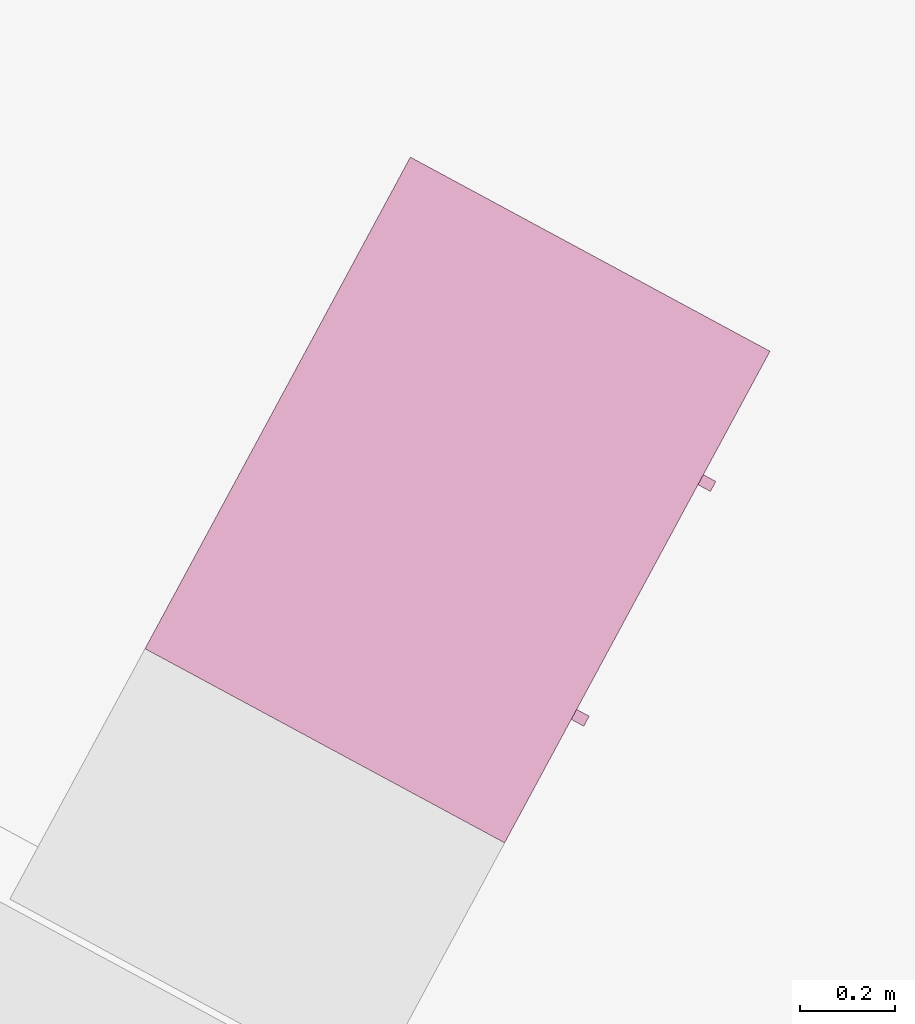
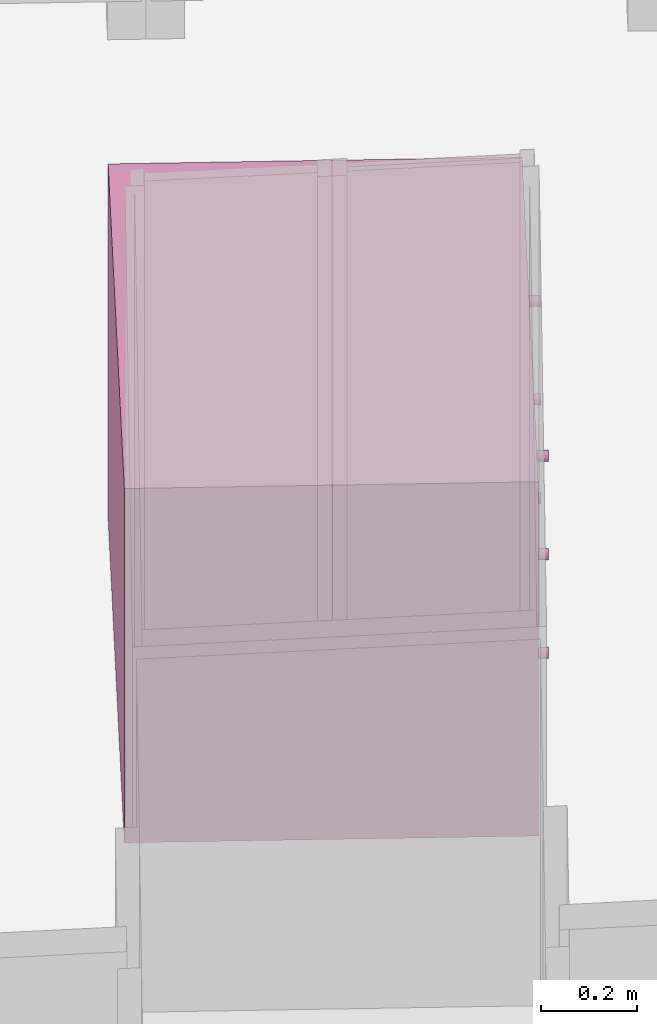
# One storey, part 30 of 41: 1 furnishing.
"""IFC2X3 building model written with IfcOpenShell, lengths in metres."""

from ifc_helpers import new_model, entity, si_unit, converted_unit, derived_unit, money_unit, direction, frame, origin_with_axes, place, context, subcontext, project, spatial, faceted_brep, type_object, element, save


model = new_model("IFC2X3")

# Units and contexts
model_context = context("Model", 3, precision=1e-05, world=origin_with_axes(), true_north=direction((0.0, 1.0)))
body_context = subcontext(model_context, "Body", "Model", "MODEL_VIEW")
ifc_project = project(units=[si_unit("LENGTHUNIT", "METRE"), si_unit("AREAUNIT", "SQUARE_METRE"), si_unit("VOLUMEUNIT", "CUBIC_METRE"), converted_unit("PLANEANGLEUNIT", "DEGREE", entity("IfcPlaneAngleMeasure", 0.0174532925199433), si_unit("PLANEANGLEUNIT", "RADIAN"), dimensions=[0, 0, 0, 0, 0, 0, 0]), money_unit("EUR"), converted_unit("TIMEUNIT", "Year", entity("IfcTimeMeasure", 31556926.0), si_unit("TIMEUNIT", "SECOND"), dimensions=[0, 0, 1, 0, 0, 0, 0]), si_unit("MASSUNIT", "GRAM", prefix="KILO"), si_unit("THERMODYNAMICTEMPERATUREUNIT", "DEGREE_CELSIUS"), si_unit("LUMINOUSINTENSITYUNIT", "LUMEN"), si_unit("ENERGYUNIT", "JOULE", prefix="MEGA"), derived_unit("THERMALCONDUCTANCEUNIT", [(si_unit("POWERUNIT", "WATT"), 1), (si_unit("LENGTHUNIT", "METRE"), -1), (si_unit("THERMODYNAMICTEMPERATUREUNIT", "KELVIN"), -1)]), derived_unit("SPECIFICHEATCAPACITYUNIT", [(si_unit("ENERGYUNIT", "JOULE"), 1), (si_unit("MASSUNIT", "GRAM", prefix="KILO"), -1), (si_unit("THERMODYNAMICTEMPERATUREUNIT", "KELVIN"), -1)]), derived_unit("MASSDENSITYUNIT", [(si_unit("MASSUNIT", "GRAM", prefix="KILO"), 1), (si_unit("VOLUMEUNIT", "CUBIC_METRE"), -1)])], contexts=[model_context])

# Site, building, storey
site_placement = place(None, frame((-3.949935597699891, 1.740105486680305, 0.0), z_axis=(0.0, 0.0, 1.0), x_axis=(0.8799804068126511, -0.475009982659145, 0.0)))
site = spatial("IfcSite", under=ifc_project, at=site_placement, Name="Gelände", CompositionType="ELEMENT")
building_placement = place(site_placement, origin_with_axes())
building = spatial("IfcBuilding", under=site, at=building_placement, Name="Gebäude", CompositionType="ELEMENT")
storey_placement = place(building_placement, frame((0.0, 0.0, 4.55), z_axis=(0.0, 0.0, 1.0), x_axis=(1.0, 0.0, 0.0)))
storey = spatial("IfcBuildingStorey", under=building, at=storey_placement, Name="Staffelgeschoss", CompositionType="ELEMENT", Elevation=4.55)

# Furnishing
furniture_type = type_object("IfcFurnitureType", Name="Kommode 26", AssemblyPlace="NOTDEFINED")
furnishing_placement = place(storey_placement, frame((14.27822566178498, 2.239997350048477, 0.0), z_axis=(0.0, 0.0, 1.0), x_axis=(0.0, 1.0, 0.0)))
element("IfcFurnishingElement", 1, at=furnishing_placement, inside=storey, type_object=furniture_type, Name="Objekt-0098", ObjectType="FURNITURE", context=body_context, shape_type="Brep", body=[
    faceted_brep([(0.025, 0.0, 0.0), (0.0, 0.0, 0.0), (0.0, 0.8618297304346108, 0.0), (0.025, 0.8618297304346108, 0.0), (0.025, 0.0, 0.875), (0.0, 0.0, 0.875), (0.0, 0.8618297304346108, 0.875), (0.025, 0.8618297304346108, 0.875)], [[[0, 1, 2, 3]], [[1, 0, 4, 5]], [[2, 1, 5, 6]], [[3, 2, 6, 7]], [[0, 3, 7, 4]], [[5, 4, 7, 6]]]),
    faceted_brep([(1.153063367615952, 0.02, 0.0), (0.025, 0.02, 0.0), (0.025, 0.045, 0.0), (1.153063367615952, 0.045, 0.0), (1.153063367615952, 0.02, 0.11), (0.025, 0.02, 0.11), (0.025, 0.045, 0.11), (1.153063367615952, 0.045, 0.11)], [[[0, 1, 2, 3]], [[1, 0, 4, 5]], [[2, 1, 5, 6]], [[3, 2, 6, 7]], [[0, 3, 7, 4]], [[5, 4, 7, 6]]]),
    faceted_brep([(1.153063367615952, 0.8368297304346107, 0.0), (0.025, 0.8368297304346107, 0.0), (0.025, 0.8618297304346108, 0.0), (1.153063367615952, 0.8618297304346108, 0.0), (1.153063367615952, 0.8368297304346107, 0.11), (0.025, 0.8368297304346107, 0.11), (0.025, 0.8618297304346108, 0.11), (1.153063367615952, 0.8618297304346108, 0.11)], [[[0, 1, 2, 3]], [[1, 0, 4, 5]], [[2, 1, 5, 6]], [[3, 2, 6, 7]], [[0, 3, 7, 4]], [[5, 4, 7, 6]]]),
    faceted_brep([(1.153063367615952, 0.0, 0.11), (0.025, 0.0, 0.11), (0.025, 0.8618297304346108, 0.11), (1.153063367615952, 0.8618297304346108, 0.11), (1.153063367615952, 0.0, 0.125), (0.025, 0.0, 0.125), (0.025, 0.8618297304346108, 0.125), (1.153063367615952, 0.8618297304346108, 0.125)], [[[0, 1, 2, 3]], [[1, 0, 4, 5]], [[2, 1, 5, 6]], [[3, 2, 6, 7]], [[0, 3, 7, 4]], [[5, 4, 7, 6]]]),
    faceted_brep([(1.153063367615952, 0.8568297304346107, 0.125), (0.025, 0.8568297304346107, 0.125), (0.025, 0.8618297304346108, 0.125), (1.153063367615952, 0.8618297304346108, 0.125), (1.153063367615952, 0.8568297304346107, 0.875), (0.025, 0.8568297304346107, 0.875), (0.025, 0.8618297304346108, 0.875), (1.153063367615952, 0.8618297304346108, 0.875)], [[[0, 1, 2, 3]], [[1, 0, 4, 5]], [[2, 1, 5, 6]], [[3, 2, 6, 7]], [[0, 3, 7, 4]], [[5, 4, 7, 6]]]),
    faceted_brep([(1.178063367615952, 0.0, 0.0), (1.153063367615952, 0.0, 0.0), (1.153063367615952, 0.8618297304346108, 0.0), (1.178063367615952, 0.8618297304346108, 0.0), (1.178063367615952, 0.0, 0.875), (1.153063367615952, 0.0, 0.875), (1.153063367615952, 0.8618297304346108, 0.875), (1.178063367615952, 0.8618297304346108, 0.875)], [[[0, 1, 2, 3]], [[1, 0, 4, 5]], [[2, 1, 5, 6]], [[3, 2, 6, 7]], [[0, 3, 7, 4]], [[5, 4, 7, 6]]]),
    faceted_brep([(1.151563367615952, 0.02, 0.1265), (0.0265, 0.02, 0.1265), (0.0265, 0.8553297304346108, 0.1265), (1.151563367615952, 0.8553297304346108, 0.1265), (1.151563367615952, 0.02, 0.1465), (0.0265, 0.02, 0.1465), (0.0265, 0.8553297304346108, 0.1465), (1.151563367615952, 0.8553297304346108, 0.1465)], [[[0, 1, 2, 3]], [[1, 0, 4, 5]], [[2, 1, 5, 6]], [[3, 2, 6, 7]], [[0, 3, 7, 4]], [[5, 4, 7, 6]]]),
    faceted_brep([(0.0465, 0.02, 0.1465), (0.0265, 0.02, 0.1465), (0.0265, 0.8553297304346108, 0.1465), (0.0465, 0.8553297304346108, 0.1465), (0.0465, 0.02, 0.3735), (0.0265, 0.02, 0.3735), (0.0265, 0.8553297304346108, 0.3735), (0.0465, 0.8553297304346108, 0.3735)], [[[0, 1, 2, 3]], [[1, 0, 4, 5]], [[2, 1, 5, 6]], [[3, 2, 6, 7]], [[0, 3, 7, 4]], [[5, 4, 7, 6]]]),
    faceted_brep([(1.151563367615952, 0.02, 0.1465), (1.131563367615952, 0.02, 0.1465), (1.131563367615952, 0.8553297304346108, 0.1465), (1.151563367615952, 0.8553297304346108, 0.1465), (1.151563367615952, 0.02, 0.3735), (1.131563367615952, 0.02, 0.3735), (1.131563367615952, 0.8553297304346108, 0.3735), (1.151563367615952, 0.8553297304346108, 0.3735)], [[[0, 1, 2, 3]], [[1, 0, 4, 5]], [[2, 1, 5, 6]], [[3, 2, 6, 7]], [[0, 3, 7, 4]], [[5, 4, 7, 6]]]),
    faceted_brep([(1.131563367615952, 0.8353297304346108, 0.1465), (0.0465, 0.8353297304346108, 0.1465), (0.0465, 0.8553297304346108, 0.1465), (1.131563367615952, 0.8553297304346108, 0.1465), (1.131563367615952, 0.8353297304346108, 0.3735), (0.0465, 0.8353297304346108, 0.3735), (0.0465, 0.8553297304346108, 0.3735), (1.131563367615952, 0.8553297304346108, 0.3735)], [[[0, 1, 2, 3]], [[1, 0, 4, 5]], [[2, 1, 5, 6]], [[3, 2, 6, 7]], [[0, 3, 7, 4]], [[5, 4, 7, 6]]]),
    faceted_brep([(0.3193569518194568, 0.0, 0.2468941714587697), (0.3181581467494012, 0.0, 0.244), (0.3162511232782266, 0.0, 0.2415147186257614), (0.313765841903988, 0.0, 0.2396076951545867), (0.3108716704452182, 0.0, 0.2384088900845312), (0.307765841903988, 0.0, 0.238), (0.3046600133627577, 0.0, 0.2384088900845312), (0.301765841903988, 0.0, 0.2396076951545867), (0.2992805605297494, 0.0, 0.2415147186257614), (0.2973735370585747, 0.0, 0.244), (0.2961747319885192, 0.0, 0.2468941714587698), (0.295765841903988, 0.0, 0.25), (0.2961747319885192, 0.0, 0.2531058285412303), (0.2973735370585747, 0.0, 0.256), (0.2992805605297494, 0.0, 0.2584852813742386), (0.301765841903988, 0.0, 0.2603923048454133), (0.3046600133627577, 0.0, 0.2615911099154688), (0.307765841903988, 0.0, 0.262), (0.3108716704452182, 0.0, 0.2615911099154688), (0.313765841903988, 0.0, 0.2603923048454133), (0.3162511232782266, 0.0, 0.2584852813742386), (0.3181581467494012, 0.0, 0.256), (0.3193569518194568, 0.0, 0.2531058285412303), (0.319765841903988, 0.0, 0.25), (0.3193569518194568, -0.02999999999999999, 0.2468941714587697), (0.3181581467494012, -0.02999999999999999, 0.244), (0.3162511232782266, -0.02999999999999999, 0.2415147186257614), (0.313765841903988, -0.02999999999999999, 0.2396076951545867), (0.3108716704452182, -0.02999999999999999, 0.2384088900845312), (0.307765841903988, -0.02999999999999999, 0.238), (0.3046600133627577, -0.02999999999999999, 0.2384088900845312), (0.301765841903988, -0.02999999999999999, 0.2396076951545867), (0.2992805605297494, -0.02999999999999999, 0.2415147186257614), (0.2973735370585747, -0.02999999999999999, 0.244), (0.2961747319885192, -0.02999999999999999, 0.2468941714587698), (0.295765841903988, -0.02999999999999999, 0.25), (0.2961747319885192, -0.02999999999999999, 0.2531058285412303), (0.2973735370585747, -0.02999999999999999, 0.256), (0.2992805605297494, -0.02999999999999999, 0.2584852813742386), (0.301765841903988, -0.02999999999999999, 0.2603923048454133), (0.3046600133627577, -0.02999999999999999, 0.2615911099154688), (0.307765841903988, -0.02999999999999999, 0.262), (0.3108716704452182, -0.02999999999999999, 0.2615911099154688), (0.313765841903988, -0.02999999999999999, 0.2603923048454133), (0.3162511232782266, -0.02999999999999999, 0.2584852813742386), (0.3181581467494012, -0.02999999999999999, 0.256), (0.3193569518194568, -0.02999999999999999, 0.2531058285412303), (0.319765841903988, -0.02999999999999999, 0.25)], [[[0, 1, 2, 3, 4, 5, 6, 7, 8, 9, 10, 11, 12, 13, 14, 15, 16, 17, 18, 19, 20, 21, 22, 23]], [[1, 0, 24, 25]], [[2, 1, 25, 26]], [[3, 2, 26, 27]], [[4, 3, 27, 28]], [[5, 4, 28, 29]], [[6, 5, 29, 30]], [[7, 6, 30, 31]], [[8, 7, 31, 32]], [[9, 8, 32, 33]], [[10, 9, 33, 34]], [[11, 10, 34, 35]], [[12, 11, 35, 36]], [[13, 12, 36, 37]], [[14, 13, 37, 38]], [[15, 14, 38, 39]], [[16, 15, 39, 40]], [[17, 16, 40, 41]], [[18, 17, 41, 42]], [[19, 18, 42, 43]], [[20, 19, 43, 44]], [[21, 20, 44, 45]], [[22, 21, 45, 46]], [[23, 22, 46, 47]], [[0, 23, 47, 24]], [[24, 47, 46, 45, 44, 43, 42, 41, 40, 39, 38, 37, 36, 35, 34, 33, 32, 31, 30, 29, 28, 27, 26, 25]]]),
    faceted_brep([(0.858706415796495, 0.0, 0.2468941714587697), (0.8582975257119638, 0.0, 0.25), (0.858706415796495, 0.0, 0.2531058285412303), (0.8599052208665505, 0.0, 0.256), (0.8618122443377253, 0.0, 0.2584852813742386), (0.8642975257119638, 0.0, 0.2603923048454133), (0.8671916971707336, 0.0, 0.2615911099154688), (0.8702975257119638, 0.0, 0.262), (0.873403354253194, 0.0, 0.2615911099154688), (0.8762975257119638, 0.0, 0.2603923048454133), (0.8787828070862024, 0.0, 0.2584852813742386), (0.8806898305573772, 0.0, 0.256), (0.8818886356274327, 0.0, 0.2531058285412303), (0.8822975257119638, 0.0, 0.25), (0.8818886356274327, 0.0, 0.2468941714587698), (0.8806898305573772, 0.0, 0.244), (0.8787828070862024, 0.0, 0.2415147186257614), (0.8762975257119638, 0.0, 0.2396076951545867), (0.873403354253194, 0.0, 0.2384088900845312), (0.8702975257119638, 0.0, 0.238), (0.8671916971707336, 0.0, 0.2384088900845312), (0.8642975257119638, 0.0, 0.2396076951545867), (0.8618122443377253, 0.0, 0.2415147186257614), (0.8599052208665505, 0.0, 0.244), (0.858706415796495, -0.02999999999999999, 0.2468941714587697), (0.8582975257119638, -0.02999999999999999, 0.25), (0.858706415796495, -0.02999999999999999, 0.2531058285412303), (0.8599052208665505, -0.02999999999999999, 0.256), (0.8618122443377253, -0.02999999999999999, 0.2584852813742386), (0.8642975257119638, -0.02999999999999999, 0.2603923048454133), (0.8671916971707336, -0.02999999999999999, 0.2615911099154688), (0.8702975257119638, -0.02999999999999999, 0.262), (0.873403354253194, -0.02999999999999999, 0.2615911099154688), (0.8762975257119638, -0.02999999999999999, 0.2603923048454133), (0.8787828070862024, -0.02999999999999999, 0.2584852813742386), (0.8806898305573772, -0.02999999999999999, 0.256), (0.8818886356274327, -0.02999999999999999, 0.2531058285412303), (0.8822975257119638, -0.02999999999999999, 0.25), (0.8818886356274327, -0.02999999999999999, 0.2468941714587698), (0.8806898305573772, -0.02999999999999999, 0.244), (0.8787828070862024, -0.02999999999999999, 0.2415147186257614), (0.8762975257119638, -0.02999999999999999, 0.2396076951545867), (0.873403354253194, -0.02999999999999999, 0.2384088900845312), (0.8702975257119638, -0.02999999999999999, 0.238), (0.8671916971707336, -0.02999999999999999, 0.2384088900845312), (0.8642975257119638, -0.02999999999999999, 0.2396076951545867), (0.8618122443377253, -0.02999999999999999, 0.2415147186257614), (0.8599052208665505, -0.02999999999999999, 0.244)], [[[0, 1, 2, 3, 4, 5, 6, 7, 8, 9, 10, 11, 12, 13, 14, 15, 16, 17, 18, 19, 20, 21, 22, 23]], [[0, 24, 25, 1]], [[1, 25, 26, 2]], [[2, 26, 27, 3]], [[3, 27, 28, 4]], [[4, 28, 29, 5]], [[5, 29, 30, 6]], [[6, 30, 31, 7]], [[7, 31, 32, 8]], [[8, 32, 33, 9]], [[9, 33, 34, 10]], [[10, 34, 35, 11]], [[11, 35, 36, 12]], [[12, 36, 37, 13]], [[13, 37, 38, 14]], [[14, 38, 39, 15]], [[15, 39, 40, 16]], [[16, 40, 41, 17]], [[17, 41, 42, 18]], [[18, 42, 43, 19]], [[19, 43, 44, 20]], [[20, 44, 45, 21]], [[21, 45, 46, 22]], [[22, 46, 47, 23]], [[23, 47, 24, 0]], [[24, 47, 46, 45, 44, 43, 42, 41, 40, 39, 38, 37, 36, 35, 34, 33, 32, 31, 30, 29, 28, 27, 26, 25]]]),
    faceted_brep([(0.0265, 0.02, 0.1265), (1.151563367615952, 0.02, 0.1265), (1.151563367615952, 0.0, 0.1265), (0.0265, 0.0, 0.1265), (0.0265, 0.02000000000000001, 0.3735), (1.151563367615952, 0.02000000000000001, 0.3735), (1.151563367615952, 0.0, 0.3735), (0.0265, 0.0, 0.3735)], [[[0, 1, 2, 3]], [[0, 4, 5, 1]], [[1, 5, 6, 2]], [[3, 2, 6, 7]], [[4, 0, 3, 7]], [[5, 4, 7, 6]]]),
    faceted_brep([(1.151563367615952, 0.02, 0.3765), (0.0265, 0.02, 0.3765), (0.0265, 0.8553297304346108, 0.3765), (1.151563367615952, 0.8553297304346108, 0.3765), (1.151563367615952, 0.02, 0.3965), (0.0265, 0.02, 0.3965), (0.0265, 0.8553297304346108, 0.3965), (1.151563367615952, 0.8553297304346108, 0.3965)], [[[0, 1, 2, 3]], [[1, 0, 4, 5]], [[2, 1, 5, 6]], [[3, 2, 6, 7]], [[0, 3, 7, 4]], [[5, 4, 7, 6]]]),
    faceted_brep([(0.0465, 0.02, 0.3965), (0.0265, 0.02, 0.3965), (0.0265, 0.8553297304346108, 0.3965), (0.0465, 0.8553297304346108, 0.3965), (0.0465, 0.02, 0.6235), (0.0265, 0.02, 0.6235), (0.0265, 0.8553297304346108, 0.6235), (0.0465, 0.8553297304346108, 0.6235)], [[[0, 1, 2, 3]], [[1, 0, 4, 5]], [[2, 1, 5, 6]], [[3, 2, 6, 7]], [[0, 3, 7, 4]], [[5, 4, 7, 6]]]),
    faceted_brep([(1.151563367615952, 0.02, 0.3965), (1.131563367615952, 0.02, 0.3965), (1.131563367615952, 0.8553297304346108, 0.3965), (1.151563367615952, 0.8553297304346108, 0.3965), (1.151563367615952, 0.02, 0.6235), (1.131563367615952, 0.02, 0.6235), (1.131563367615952, 0.8553297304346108, 0.6235), (1.151563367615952, 0.8553297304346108, 0.6235)], [[[0, 1, 2, 3]], [[1, 0, 4, 5]], [[2, 1, 5, 6]], [[3, 2, 6, 7]], [[0, 3, 7, 4]], [[5, 4, 7, 6]]]),
    faceted_brep([(1.131563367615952, 0.8353297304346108, 0.3965), (0.0465, 0.8353297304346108, 0.3965), (0.0465, 0.8553297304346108, 0.3965), (1.131563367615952, 0.8553297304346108, 0.3965), (1.131563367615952, 0.8353297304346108, 0.6235), (0.0465, 0.8353297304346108, 0.6235), (0.0465, 0.8553297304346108, 0.6235), (1.131563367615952, 0.8553297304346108, 0.6235)], [[[0, 1, 2, 3]], [[1, 0, 4, 5]], [[2, 1, 5, 6]], [[3, 2, 6, 7]], [[0, 3, 7, 4]], [[5, 4, 7, 6]]]),
    faceted_brep([(0.3193569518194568, 0.0, 0.4968941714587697), (0.3181581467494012, 0.0, 0.494), (0.3162511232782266, 0.0, 0.4915147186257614), (0.313765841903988, 0.0, 0.4896076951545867), (0.3108716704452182, 0.0, 0.4884088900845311), (0.307765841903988, 0.0, 0.488), (0.3046600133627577, 0.0, 0.4884088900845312), (0.301765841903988, 0.0, 0.4896076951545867), (0.2992805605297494, 0.0, 0.4915147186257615), (0.2973735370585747, 0.0, 0.494), (0.2961747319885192, 0.0, 0.4968941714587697), (0.295765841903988, 0.0, 0.5), (0.2961747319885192, 0.0, 0.5031058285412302), (0.2973735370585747, 0.0, 0.506), (0.2992805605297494, 0.0, 0.5084852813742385), (0.301765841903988, 0.0, 0.5103923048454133), (0.3046600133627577, 0.0, 0.5115911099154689), (0.307765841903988, 0.0, 0.512), (0.3108716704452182, 0.0, 0.5115911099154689), (0.313765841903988, 0.0, 0.5103923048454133), (0.3162511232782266, 0.0, 0.5084852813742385), (0.3181581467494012, 0.0, 0.506), (0.3193569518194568, 0.0, 0.5031058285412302), (0.319765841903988, 0.0, 0.5), (0.3193569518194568, -0.02999999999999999, 0.4968941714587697), (0.3181581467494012, -0.02999999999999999, 0.494), (0.3162511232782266, -0.02999999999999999, 0.4915147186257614), (0.313765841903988, -0.02999999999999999, 0.4896076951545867), (0.3108716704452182, -0.02999999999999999, 0.4884088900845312), (0.307765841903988, -0.02999999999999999, 0.488), (0.3046600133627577, -0.02999999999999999, 0.4884088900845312), (0.301765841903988, -0.02999999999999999, 0.4896076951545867), (0.2992805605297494, -0.02999999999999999, 0.4915147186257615), (0.2973735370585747, -0.02999999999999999, 0.494), (0.2961747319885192, -0.02999999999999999, 0.4968941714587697), (0.295765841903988, -0.02999999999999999, 0.5), (0.2961747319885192, -0.02999999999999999, 0.5031058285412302), (0.2973735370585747, -0.02999999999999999, 0.506), (0.2992805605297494, -0.02999999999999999, 0.5084852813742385), (0.301765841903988, -0.02999999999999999, 0.5103923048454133), (0.3046600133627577, -0.02999999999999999, 0.5115911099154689), (0.307765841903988, -0.02999999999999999, 0.512), (0.3108716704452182, -0.02999999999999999, 0.5115911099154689), (0.313765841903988, -0.02999999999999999, 0.5103923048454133), (0.3162511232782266, -0.02999999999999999, 0.5084852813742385), (0.3181581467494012, -0.02999999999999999, 0.506), (0.3193569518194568, -0.02999999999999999, 0.5031058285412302), (0.319765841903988, -0.02999999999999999, 0.5)], [[[0, 1, 2, 3, 4, 5, 6, 7, 8, 9, 10, 11, 12, 13, 14, 15, 16, 17, 18, 19, 20, 21, 22, 23]], [[1, 0, 24, 25]], [[2, 1, 25, 26]], [[3, 2, 26, 27]], [[4, 3, 27, 28]], [[5, 4, 28, 29]], [[6, 5, 29, 30]], [[7, 6, 30, 31]], [[8, 7, 31, 32]], [[9, 8, 32, 33]], [[10, 9, 33, 34]], [[11, 10, 34, 35]], [[12, 11, 35, 36]], [[13, 12, 36, 37]], [[14, 13, 37, 38]], [[15, 14, 38, 39]], [[16, 15, 39, 40]], [[17, 16, 40, 41]], [[18, 17, 41, 42]], [[19, 18, 42, 43]], [[20, 19, 43, 44]], [[21, 20, 44, 45]], [[22, 21, 45, 46]], [[23, 22, 46, 47]], [[0, 23, 47, 24]], [[24, 47, 46, 45, 44, 43, 42, 41, 40, 39, 38, 37, 36, 35, 34, 33, 32, 31, 30, 29, 28, 27, 26, 25]]]),
    faceted_brep([(0.858706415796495, 0.0, 0.4968941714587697), (0.8582975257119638, 0.0, 0.5), (0.858706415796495, 0.0, 0.5031058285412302), (0.8599052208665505, 0.0, 0.506), (0.8618122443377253, 0.0, 0.5084852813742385), (0.8642975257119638, 0.0, 0.5103923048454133), (0.8671916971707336, 0.0, 0.5115911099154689), (0.8702975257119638, 0.0, 0.512), (0.873403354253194, 0.0, 0.5115911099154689), (0.8762975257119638, 0.0, 0.5103923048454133), (0.8787828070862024, 0.0, 0.5084852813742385), (0.8806898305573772, 0.0, 0.506), (0.8818886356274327, 0.0, 0.5031058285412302), (0.8822975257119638, 0.0, 0.5), (0.8818886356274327, 0.0, 0.4968941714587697), (0.8806898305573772, 0.0, 0.494), (0.8787828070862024, 0.0, 0.4915147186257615), (0.8762975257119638, 0.0, 0.4896076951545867), (0.873403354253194, 0.0, 0.4884088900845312), (0.8702975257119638, 0.0, 0.488), (0.8671916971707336, 0.0, 0.4884088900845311), (0.8642975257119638, 0.0, 0.4896076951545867), (0.8618122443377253, 0.0, 0.4915147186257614), (0.8599052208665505, 0.0, 0.494), (0.858706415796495, -0.02999999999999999, 0.4968941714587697), (0.8582975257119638, -0.02999999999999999, 0.5), (0.858706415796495, -0.02999999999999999, 0.5031058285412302), (0.8599052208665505, -0.02999999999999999, 0.506), (0.8618122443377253, -0.02999999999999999, 0.5084852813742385), (0.8642975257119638, -0.02999999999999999, 0.5103923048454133), (0.8671916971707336, -0.02999999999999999, 0.5115911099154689), (0.8702975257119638, -0.02999999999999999, 0.512), (0.873403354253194, -0.02999999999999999, 0.5115911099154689), (0.8762975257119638, -0.02999999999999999, 0.5103923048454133), (0.8787828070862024, -0.02999999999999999, 0.5084852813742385), (0.8806898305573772, -0.02999999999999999, 0.506), (0.8818886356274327, -0.02999999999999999, 0.5031058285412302), (0.8822975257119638, -0.02999999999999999, 0.5), (0.8818886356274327, -0.02999999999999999, 0.4968941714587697), (0.8806898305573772, -0.02999999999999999, 0.494), (0.8787828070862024, -0.02999999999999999, 0.4915147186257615), (0.8762975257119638, -0.02999999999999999, 0.4896076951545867), (0.873403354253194, -0.02999999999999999, 0.4884088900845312), (0.8702975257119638, -0.02999999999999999, 0.488), (0.8671916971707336, -0.02999999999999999, 0.4884088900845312), (0.8642975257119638, -0.02999999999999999, 0.4896076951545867), (0.8618122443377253, -0.02999999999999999, 0.4915147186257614), (0.8599052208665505, -0.02999999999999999, 0.494)], [[[0, 1, 2, 3, 4, 5, 6, 7, 8, 9, 10, 11, 12, 13, 14, 15, 16, 17, 18, 19, 20, 21, 22, 23]], [[0, 24, 25, 1]], [[1, 25, 26, 2]], [[2, 26, 27, 3]], [[3, 27, 28, 4]], [[4, 28, 29, 5]], [[5, 29, 30, 6]], [[6, 30, 31, 7]], [[7, 31, 32, 8]], [[8, 32, 33, 9]], [[9, 33, 34, 10]], [[10, 34, 35, 11]], [[11, 35, 36, 12]], [[12, 36, 37, 13]], [[13, 37, 38, 14]], [[14, 38, 39, 15]], [[15, 39, 40, 16]], [[16, 40, 41, 17]], [[17, 41, 42, 18]], [[18, 42, 43, 19]], [[19, 43, 44, 20]], [[20, 44, 45, 21]], [[21, 45, 46, 22]], [[22, 46, 47, 23]], [[23, 47, 24, 0]], [[24, 47, 46, 45, 44, 43, 42, 41, 40, 39, 38, 37, 36, 35, 34, 33, 32, 31, 30, 29, 28, 27, 26, 25]]]),
    faceted_brep([(0.0265, 0.02, 0.3765), (1.151563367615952, 0.02, 0.3765), (1.151563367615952, 0.0, 0.3765), (0.0265, 0.0, 0.3765), (0.0265, 0.02000000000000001, 0.6234999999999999), (1.151563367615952, 0.02000000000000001, 0.6234999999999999), (1.151563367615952, 0.0, 0.6234999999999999), (0.0265, 0.0, 0.6234999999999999)], [[[0, 1, 2, 3]], [[0, 4, 5, 1]], [[1, 5, 6, 2]], [[3, 2, 6, 7]], [[4, 0, 3, 7]], [[5, 4, 7, 6]]]),
    faceted_brep([(1.151563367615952, 0.02, 0.6265), (0.0265, 0.02, 0.6265), (0.0265, 0.8553297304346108, 0.6265), (1.151563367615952, 0.8553297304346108, 0.6265), (1.151563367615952, 0.02, 0.6465), (0.0265, 0.02, 0.6465), (0.0265, 0.8553297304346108, 0.6465), (1.151563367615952, 0.8553297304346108, 0.6465)], [[[0, 1, 2, 3]], [[1, 0, 4, 5]], [[2, 1, 5, 6]], [[3, 2, 6, 7]], [[0, 3, 7, 4]], [[5, 4, 7, 6]]]),
    faceted_brep([(0.0465, 0.02, 0.6465), (0.0265, 0.02, 0.6465), (0.0265, 0.8553297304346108, 0.6465), (0.0465, 0.8553297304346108, 0.6465), (0.0465, 0.02, 0.8734999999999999), (0.0265, 0.02, 0.8734999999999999), (0.0265, 0.8553297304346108, 0.8734999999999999), (0.0465, 0.8553297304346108, 0.8734999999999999)], [[[0, 1, 2, 3]], [[1, 0, 4, 5]], [[2, 1, 5, 6]], [[3, 2, 6, 7]], [[0, 3, 7, 4]], [[5, 4, 7, 6]]]),
    faceted_brep([(1.151563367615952, 0.02, 0.6465), (1.131563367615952, 0.02, 0.6465), (1.131563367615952, 0.8553297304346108, 0.6465), (1.151563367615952, 0.8553297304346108, 0.6465), (1.151563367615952, 0.02, 0.8734999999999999), (1.131563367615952, 0.02, 0.8734999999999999), (1.131563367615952, 0.8553297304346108, 0.8734999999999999), (1.151563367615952, 0.8553297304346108, 0.8734999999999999)], [[[0, 1, 2, 3]], [[1, 0, 4, 5]], [[2, 1, 5, 6]], [[3, 2, 6, 7]], [[0, 3, 7, 4]], [[5, 4, 7, 6]]]),
    faceted_brep([(1.131563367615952, 0.8353297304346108, 0.6465), (0.0465, 0.8353297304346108, 0.6465), (0.0465, 0.8553297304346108, 0.6465), (1.131563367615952, 0.8553297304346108, 0.6465), (1.131563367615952, 0.8353297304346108, 0.8734999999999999), (0.0465, 0.8353297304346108, 0.8734999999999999), (0.0465, 0.8553297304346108, 0.8734999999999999), (1.131563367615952, 0.8553297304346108, 0.8734999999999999)], [[[0, 1, 2, 3]], [[1, 0, 4, 5]], [[2, 1, 5, 6]], [[3, 2, 6, 7]], [[0, 3, 7, 4]], [[5, 4, 7, 6]]]),
    faceted_brep([(0.3193569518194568, 0.0, 0.7468941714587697), (0.3181581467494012, 0.0, 0.744), (0.3162511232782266, 0.0, 0.7415147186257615), (0.313765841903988, 0.0, 0.7396076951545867), (0.3108716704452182, 0.0, 0.7384088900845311), (0.307765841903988, 0.0, 0.738), (0.3046600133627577, 0.0, 0.7384088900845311), (0.301765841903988, 0.0, 0.7396076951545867), (0.2992805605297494, 0.0, 0.7415147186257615), (0.2973735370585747, 0.0, 0.744), (0.2961747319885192, 0.0, 0.7468941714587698), (0.295765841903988, 0.0, 0.75), (0.2961747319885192, 0.0, 0.7531058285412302), (0.2973735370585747, 0.0, 0.756), (0.2992805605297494, 0.0, 0.7584852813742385), (0.301765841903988, 0.0, 0.7603923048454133), (0.3046600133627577, 0.0, 0.7615911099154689), (0.307765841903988, 0.0, 0.762), (0.3108716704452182, 0.0, 0.7615911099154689), (0.313765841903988, 0.0, 0.7603923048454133), (0.3162511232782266, 0.0, 0.7584852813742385), (0.3181581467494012, 0.0, 0.756), (0.3193569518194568, 0.0, 0.7531058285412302), (0.319765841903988, 0.0, 0.75), (0.3193569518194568, -0.02999999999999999, 0.7468941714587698), (0.3181581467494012, -0.02999999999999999, 0.744), (0.3162511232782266, -0.02999999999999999, 0.7415147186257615), (0.313765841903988, -0.02999999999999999, 0.7396076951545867), (0.3108716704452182, -0.02999999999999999, 0.7384088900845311), (0.307765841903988, -0.02999999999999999, 0.738), (0.3046600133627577, -0.02999999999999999, 0.7384088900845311), (0.301765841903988, -0.02999999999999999, 0.7396076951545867), (0.2992805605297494, -0.02999999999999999, 0.7415147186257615), (0.2973735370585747, -0.02999999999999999, 0.744), (0.2961747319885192, -0.02999999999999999, 0.7468941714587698), (0.295765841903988, -0.02999999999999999, 0.75), (0.2961747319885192, -0.02999999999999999, 0.7531058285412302), (0.2973735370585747, -0.02999999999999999, 0.756), (0.2992805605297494, -0.02999999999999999, 0.7584852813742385), (0.301765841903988, -0.02999999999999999, 0.7603923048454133), (0.3046600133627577, -0.02999999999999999, 0.7615911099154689), (0.307765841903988, -0.02999999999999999, 0.762), (0.3108716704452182, -0.02999999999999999, 0.7615911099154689), (0.313765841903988, -0.02999999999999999, 0.7603923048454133), (0.3162511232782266, -0.02999999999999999, 0.7584852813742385), (0.3181581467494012, -0.02999999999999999, 0.756), (0.3193569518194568, -0.02999999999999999, 0.7531058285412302), (0.319765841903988, -0.02999999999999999, 0.75)], [[[0, 1, 2, 3, 4, 5, 6, 7, 8, 9, 10, 11, 12, 13, 14, 15, 16, 17, 18, 19, 20, 21, 22, 23]], [[1, 0, 24, 25]], [[2, 1, 25, 26]], [[3, 2, 26, 27]], [[4, 3, 27, 28]], [[5, 4, 28, 29]], [[6, 5, 29, 30]], [[7, 6, 30, 31]], [[8, 7, 31, 32]], [[9, 8, 32, 33]], [[10, 9, 33, 34]], [[11, 10, 34, 35]], [[12, 11, 35, 36]], [[13, 12, 36, 37]], [[14, 13, 37, 38]], [[15, 14, 38, 39]], [[16, 15, 39, 40]], [[17, 16, 40, 41]], [[18, 17, 41, 42]], [[19, 18, 42, 43]], [[20, 19, 43, 44]], [[21, 20, 44, 45]], [[22, 21, 45, 46]], [[23, 22, 46, 47]], [[0, 23, 47, 24]], [[24, 47, 46, 45, 44, 43, 42, 41, 40, 39, 38, 37, 36, 35, 34, 33, 32, 31, 30, 29, 28, 27, 26, 25]]]),
    faceted_brep([(0.858706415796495, 0.0, 0.7468941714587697), (0.8582975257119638, 0.0, 0.75), (0.858706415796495, 0.0, 0.7531058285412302), (0.8599052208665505, 0.0, 0.756), (0.8618122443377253, 0.0, 0.7584852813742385), (0.8642975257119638, 0.0, 0.7603923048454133), (0.8671916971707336, 0.0, 0.7615911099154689), (0.8702975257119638, 0.0, 0.762), (0.873403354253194, 0.0, 0.7615911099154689), (0.8762975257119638, 0.0, 0.7603923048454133), (0.8787828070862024, 0.0, 0.7584852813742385), (0.8806898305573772, 0.0, 0.756), (0.8818886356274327, 0.0, 0.7531058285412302), (0.8822975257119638, 0.0, 0.75), (0.8818886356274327, 0.0, 0.7468941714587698), (0.8806898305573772, 0.0, 0.744), (0.8787828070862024, 0.0, 0.7415147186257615), (0.8762975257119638, 0.0, 0.7396076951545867), (0.873403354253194, 0.0, 0.7384088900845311), (0.8702975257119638, 0.0, 0.738), (0.8671916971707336, 0.0, 0.7384088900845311), (0.8642975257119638, 0.0, 0.7396076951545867), (0.8618122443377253, 0.0, 0.7415147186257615), (0.8599052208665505, 0.0, 0.744), (0.858706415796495, -0.02999999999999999, 0.7468941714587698), (0.8582975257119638, -0.02999999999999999, 0.75), (0.858706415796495, -0.02999999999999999, 0.7531058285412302), (0.8599052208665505, -0.02999999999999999, 0.756), (0.8618122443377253, -0.02999999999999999, 0.7584852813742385), (0.8642975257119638, -0.02999999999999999, 0.7603923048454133), (0.8671916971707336, -0.02999999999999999, 0.7615911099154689), (0.8702975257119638, -0.02999999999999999, 0.762), (0.873403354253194, -0.02999999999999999, 0.7615911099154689), (0.8762975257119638, -0.02999999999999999, 0.7603923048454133), (0.8787828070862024, -0.02999999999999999, 0.7584852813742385), (0.8806898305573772, -0.02999999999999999, 0.756), (0.8818886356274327, -0.02999999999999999, 0.7531058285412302), (0.8822975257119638, -0.02999999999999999, 0.75), (0.8818886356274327, -0.02999999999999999, 0.7468941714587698), (0.8806898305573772, -0.02999999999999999, 0.744), (0.8787828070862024, -0.02999999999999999, 0.7415147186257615), (0.8762975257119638, -0.02999999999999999, 0.7396076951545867), (0.873403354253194, -0.02999999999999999, 0.7384088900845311), (0.8702975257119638, -0.02999999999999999, 0.738), (0.8671916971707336, -0.02999999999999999, 0.7384088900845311), (0.8642975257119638, -0.02999999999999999, 0.7396076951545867), (0.8618122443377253, -0.02999999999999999, 0.7415147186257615), (0.8599052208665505, -0.02999999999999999, 0.744)], [[[0, 1, 2, 3, 4, 5, 6, 7, 8, 9, 10, 11, 12, 13, 14, 15, 16, 17, 18, 19, 20, 21, 22, 23]], [[0, 24, 25, 1]], [[1, 25, 26, 2]], [[2, 26, 27, 3]], [[3, 27, 28, 4]], [[4, 28, 29, 5]], [[5, 29, 30, 6]], [[6, 30, 31, 7]], [[7, 31, 32, 8]], [[8, 32, 33, 9]], [[9, 33, 34, 10]], [[10, 34, 35, 11]], [[11, 35, 36, 12]], [[12, 36, 37, 13]], [[13, 37, 38, 14]], [[14, 38, 39, 15]], [[15, 39, 40, 16]], [[16, 40, 41, 17]], [[17, 41, 42, 18]], [[18, 42, 43, 19]], [[19, 43, 44, 20]], [[20, 44, 45, 21]], [[21, 45, 46, 22]], [[22, 46, 47, 23]], [[23, 47, 24, 0]], [[24, 47, 46, 45, 44, 43, 42, 41, 40, 39, 38, 37, 36, 35, 34, 33, 32, 31, 30, 29, 28, 27, 26, 25]]]),
    faceted_brep([(0.0265, 0.02, 0.6265), (1.151563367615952, 0.02, 0.6265), (1.151563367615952, 0.0, 0.6265), (0.0265, 0.0, 0.6265), (0.0265, 0.02000000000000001, 0.8734999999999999), (1.151563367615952, 0.02000000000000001, 0.8734999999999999), (1.151563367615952, 0.0, 0.8734999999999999), (0.0265, 0.0, 0.8734999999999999)], [[[0, 1, 2, 3]], [[0, 4, 5, 1]], [[1, 5, 6, 2]], [[3, 2, 6, 7]], [[4, 0, 3, 7]], [[5, 4, 7, 6]]]),
    faceted_brep([(1.178063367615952, 0.0, 0.875), (0.0, 0.0, 0.875), (0.0, 0.8618297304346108, 0.875), (1.178063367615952, 0.8618297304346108, 0.875), (1.178063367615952, 0.0, 0.9), (0.0, 0.0, 0.9), (0.0, 0.8618297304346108, 0.9), (1.178063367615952, 0.8618297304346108, 0.9)], [[[0, 1, 2, 3]], [[1, 0, 4, 5]], [[2, 1, 5, 6]], [[3, 2, 6, 7]], [[0, 3, 7, 4]], [[5, 4, 7, 6]]]),
])

save(model, "model.ifc")
